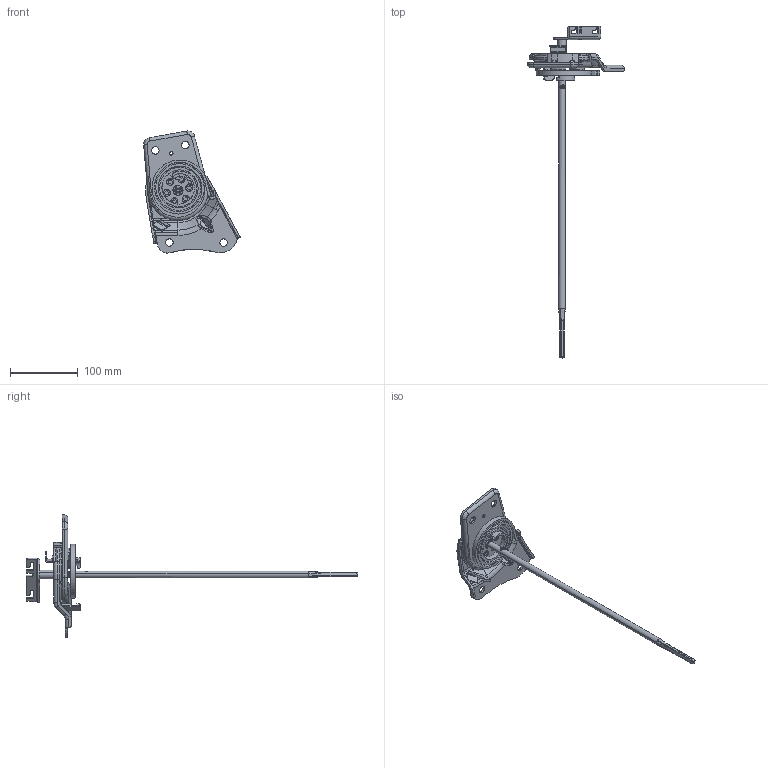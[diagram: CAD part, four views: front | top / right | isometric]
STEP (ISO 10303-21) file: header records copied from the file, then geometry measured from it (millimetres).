
FILE_DESCRIPTION(('CATIA V5 STEP Exchange'),'2;1');
FILE_NAME('C:\Users\lizhaofeng\Desktop\SHT0012856.stp','2020-12-07T07:31:09+00:00',('none'),('none'),'CATIA Version 5 Release 20 GA (IN-10)','CATIA V5 STEP AP203 Edition 2','none');
FILE_SCHEMA(('AP203_CONFIGURATION_CONTROLLED_3D_DESIGN_OF_MECHANICAL_PARTS_AND_ASSEMBLIES_MIM_LF { 1 0 10303 403 2 1 2}'));
Length unit declared in the file: millimetre
Products named in the file (13): SHT0012856; SQX3000-6805105; H4B-6805105; SQX3000-6805101; SQX3000-6805121; SQX3000-6805102; H4A-6805104; B406805215; H4B-6805108; H4B-6805115; H4B-6805110; SHT0010720; SHT0011978
Assembly tree (12 placements, depth 3):
  SHT0012856
    SQX3000-6805105
    H4B-6805105
    SQX3000-6805101
    SQX3000-6805121
      SQX3000-6805102
      H4A-6805104
    B406805215
    H4B-6805108
    H4B-6805115
    H4B-6805110
    SHT0010720
    SHT0011978
Bounding box: 142.91 x 490.41 x 180.28 mm (x, y, z)
Volume: 180387.5 mm3; surface area: 141662.9 mm2
Topology: 14 solids, 14 shells, 1176 faces, 3088 edges, 1937 vertices
Faces by surface type: cylinder 489, plane 355, torus 111, bspline 108, sphere 70, cone 41, extrusion 2
Entity records: 50425 total; most frequent: CARTESIAN_POINT 23556, ORIENTED_EDGE 6040, DIRECTION 4333, EDGE_CURVE 3020, AXIS2_PLACEMENT_3D 2081, VERTEX_POINT 1937, EDGE_LOOP 1309, VECTOR 1238
